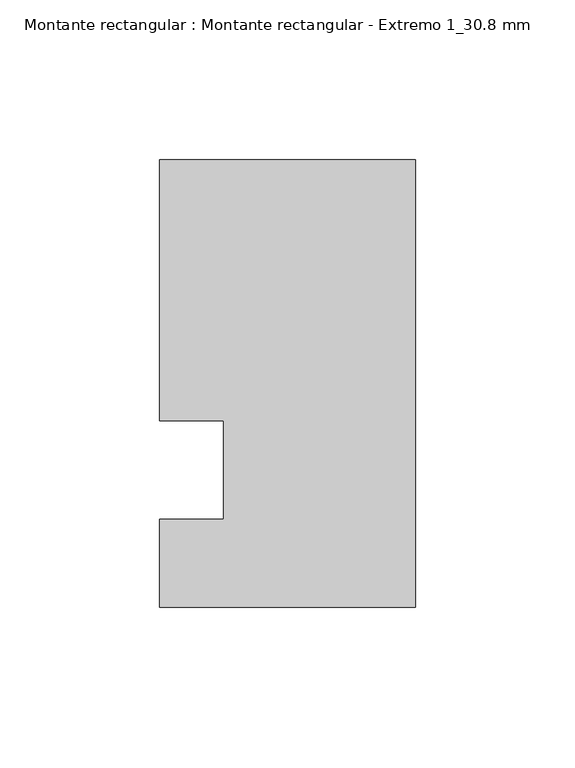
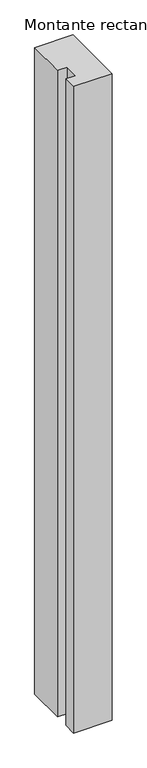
"""IFC4 building model written with IfcOpenShell, lengths in millimetres: member geometry, Montante rectangular : Montante rectangular - Extremo 1_30.8 mm."""

from ifc_helpers import new_model, si_unit, frame, origin, place, context, project, spatial, polyline, outline, extrude, source, transform, mapped, element, save


def montante_rectangular_montante_rectangular_extremo_1_30_8_mm_140b2925(model_context):
    return source(origin(), model_context, "Body", "SweptSolid", [
        extrude(outline(polyline([(0.0, 80.0), (0.0, -60.0), (-80.0, -60.0), (-80.0, -32.4), (-60.0, -32.4), (-60.0, -1.6), (-80.0, -1.6), (-80.0, 80.0), (0.0, 80.0)])), frame((0.0, 0.0, -1420.0), z_axis=(0.0, 0.0, 1.0), x_axis=(1.0, 0.0, 0.0)), (0.0, 0.0, 1.0), 1420.0),
    ])


if __name__ == "__main__":
    model = new_model("IFC4")
    model_context = context("Model", 3, world=origin())
    ifc_project = project(units=[si_unit("LENGTHUNIT", "METRE", prefix="MILLI")], contexts=[model_context])
    site = spatial("IfcSite", under=ifc_project)
    building = spatial("IfcBuilding", under=site)
    placement = place(None, origin())
    montante_rectangular_montante_rectangular_extremo_1_30_8_mm_shape = montante_rectangular_montante_rectangular_extremo_1_30_8_mm_140b2925(model_context)
    element("IfcMember", 1, ObjectType="Montante rectangular : Montante rectangular - Extremo 1_30.8 mm", at=placement, inside=building, context=model_context, shape_type="MappedRepresentation", body=[
        mapped(montante_rectangular_montante_rectangular_extremo_1_30_8_mm_shape, transform((0.0, 0.0, 0.0), x_axis=(1.0, 0.0, 0.0), y_axis=(0.0, 1.0, 0.0), z_axis=(0.0, 0.0, 1.0))),
    ])
    save(model, "model.ifc")
